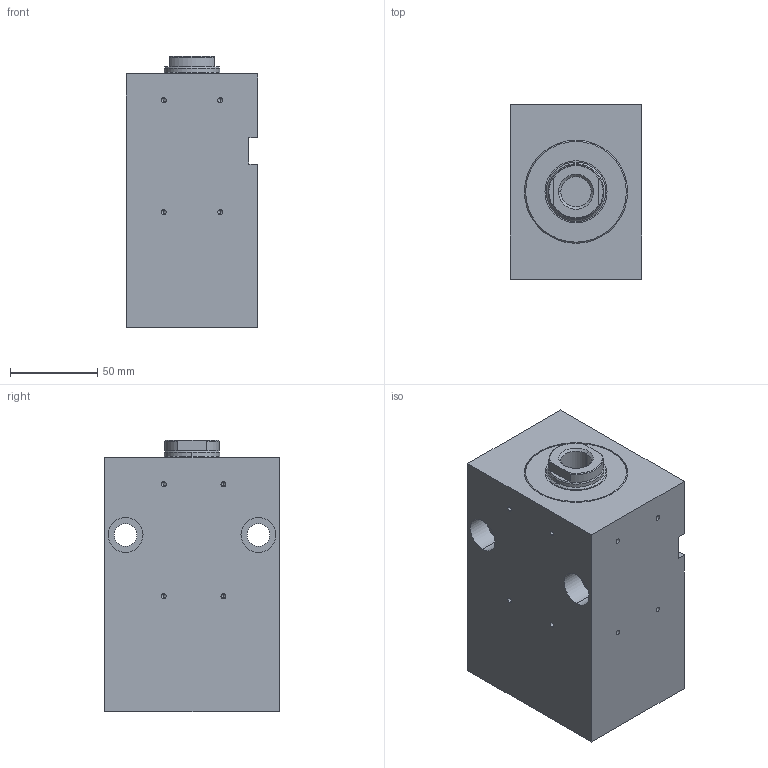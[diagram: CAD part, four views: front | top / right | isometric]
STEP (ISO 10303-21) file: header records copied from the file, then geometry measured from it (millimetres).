
FILE_DESCRIPTION (( 'STEP AP203' ), '1' );
FILE_NAME ('BZ_500.50_32.33.201.080 PP.NS44__DH_0_.STEP', '2022-05-30T09:07:18', ( '' ), ( '' ), 'SwSTEP 2.0', 'SolidWorks 2020', '' );
FILE_SCHEMA (( 'CONFIG_CONTROL_DESIGN' ));
Length unit declared in the file: millimetre
Products named in the file (7): _Gehaeuse f. BZ500.50_32.33.201.80.N1.m (m = Nut spiegelbildlich44)Nut rechts, Senkungen links00(144frei1330220))7^BZ_500.50_32.33.201.080 PP.NS44__DH_0_(2)_BZ_500.50_32.33.201.080 PP.NS44__DH~; BZ_500.50_32.33.201.080 PP.NS44__DH_0_; _Kolbenstange komplett f. BZ_RZ_FZ.50_32.xx.201.80(0_11 1 20 2.5 0 0 10 30 0 0 0)0^BZ_500.50_32.33.201.080 PP.NS44__DH_0_(2)_BZ_500.50_32.33.201.080 PP.NS44__DH_0_; _Verschraubung komplett mit Dichtung f. BZ_RZ_FZ.50_32.201, Art.-Nr._ 042986(201)^BZ_500.50_32.33.201.080 PP.NS44__DH_0_(2)_BZ_500.50_32.33.201.080 PP.NS44__DH_0_; _Dichtungssatz f. BZ_RZ_FZ.50_32.xx.201.80 Artikelnr._ 013676(0)^BZ_500.50_32.33.201.080 PP.NS44__DH_0_(2)_BZ_500.50_32.33.201.080 PP.NS44__DH_0_; _O-Ring 9x2 - Art. 104351^BZ_500.50_32.33.201.080 PP.NS44__DH_0_(2)_BZ_500.50_32.33.201.080 PP.NS44__DH_0_; BZ_500.50_32.33.201.080 PP.NS44__DH_0_(2)^BZ_500.50_32.33.201.080 PP.NS44__DH_0_
Assembly tree (7 placements, depth 3):
  BZ_500.50_32.33.201.080 PP.NS44__DH_0_
    BZ_500.50_32.33.201.080 PP.NS44__DH_0_(2)^BZ_500.50_32.33.201.080 PP.NS44__DH_0_
      _Gehaeuse f. BZ500.50_32.33.201.80.N1.m (m = Nut spiegelbildlich44)Nut rechts, Senkungen links00(144frei1330220))7^BZ_500.50_32.33.201.080 PP.NS44__DH_0_(2)_BZ_500.50_32.33.201.080 PP.NS44__DH~
      _Verschraubung komplett mit Dichtung f. BZ_RZ_FZ.50_32.201, Art.-Nr._ 042986(201)^BZ_500.50_32.33.201.080 PP.NS44__DH_0_(2)_BZ_500.50_32.33.201.080 PP.NS44__DH_0_
      _Dichtungssatz f. BZ_RZ_FZ.50_32.xx.201.80 Artikelnr._ 013676(0)^BZ_500.50_32.33.201.080 PP.NS44__DH_0_(2)_BZ_500.50_32.33.201.080 PP.NS44__DH_0_
      _Kolbenstange komplett f. BZ_RZ_FZ.50_32.xx.201.80(0_11 1 20 2.5 0 0 10 30 0 0 0)0^BZ_500.50_32.33.201.080 PP.NS44__DH_0_(2)_BZ_500.50_32.33.201.080 PP.NS44__DH_0_
      _O-Ring 9x2 - Art. 104351^BZ_500.50_32.33.201.080 PP.NS44__DH_0_(2)_BZ_500.50_32.33.201.080 PP.NS44__DH_0_  x2
Bounding box: 75 x 100 x 155 mm (x, y, z)
Volume: 961193.2 mm3; surface area: 132214.8 mm2
Topology: 6 solids, 6 shells, 154 faces, 354 edges, 210 vertices
Faces by surface type: cylinder 70, plane 38, cone 34, torus 12
Entity records: 4874 total; most frequent: DIRECTION 785, CARTESIAN_POINT 759, ORIENTED_EDGE 628, AXIS2_PLACEMENT_3D 324, EDGE_CURVE 314, VERTEX_POINT 200, EDGE_LOOP 182, CIRCLE 167
